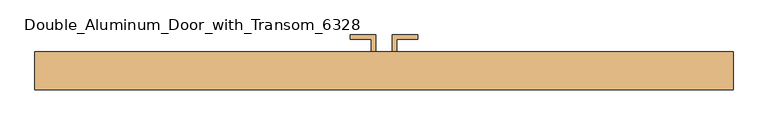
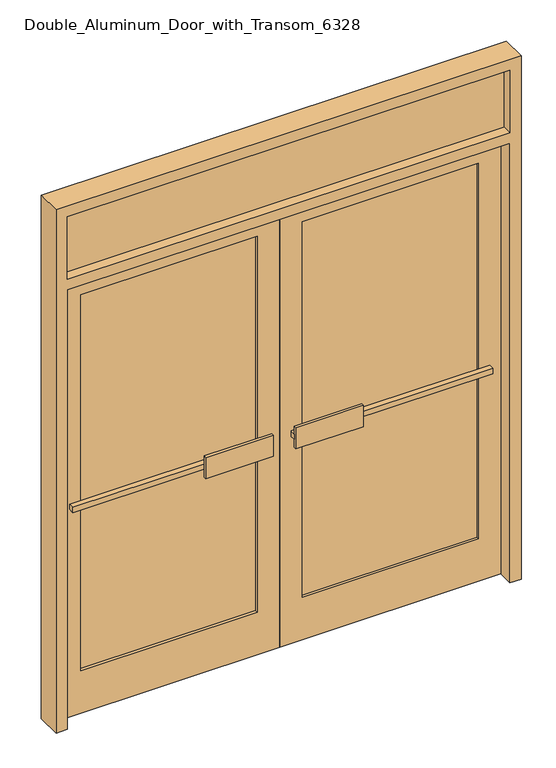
"""IFC4 building model written with IfcOpenShell, lengths in millimetres: door geometry."""

from ifc_helpers import new_model, si_unit, frame, origin, place, context, project, spatial, polyline, outline, extrude, source, transform, mapped, element, save


def double_aluminum_door_with_transom_6328_fa6c1022(model_context):
    return source(origin(), model_context, "Body", "SweptSolid", [
        extrude(outline(polyline([(898.4, 17.85), (101.6, 17.85), (101.6, 36.9), (898.4, 36.9), (898.4, 17.85)])), frame((0.0, 0.0, 203.2), z_axis=(0.0, 0.0, 1.0), x_axis=(1.0, 0.0, 0.0)), (0.0, 0.0, 1.0), 1795.2),
        extrude(outline(polyline([(2100.0, 0.0), (2100.0, -1000.0), (0.0, -1000.0), (0.0, 0.0), (2100.0, 0.0)]), holes=[polyline([(1998.4, -898.4), (1998.4, -101.6), (203.2, -101.6), (203.2, -898.4), (1998.4, -898.4)])]), frame((0.0, 5.15, 0.0), z_axis=(0.0, 1.0, 0.0), x_axis=(0.0, 0.0, 1.0)), (0.0, 0.0, 1.0), 44.45),
        extrude(outline(polyline([(50.8, 5.15), (949.2, 5.15), (949.2, -20.25), (50.8, -20.25), (50.8, 5.15)])), frame((0.0, 0.0, 990.6), z_axis=(0.0, 0.0, 1.0), x_axis=(1.0, 0.0, 0.0)), (0.0, 0.0, 1.0), 25.4),
        extrude(outline(polyline([(25.4, 100.4), (101.6, 100.4), (101.6, 87.7), (38.1, 87.7), (38.1, 49.6), (25.4, 49.6), (25.4, 100.4)])), frame((0.0, 0.0, 914.4), z_axis=(0.0, 0.0, 1.0), x_axis=(1.0, 0.0, 0.0)), (0.0, 0.0, 1.0), 203.2),
        extrude(outline(polyline([(2100.0, 0.0), (0.0, 0.0), (0.0, 1000.0), (2100.0, 1000.0), (2100.0, 0.0)]), holes=[polyline([(1998.4, 898.4), (203.2, 898.4), (203.2, 101.6), (1998.4, 101.6), (1998.4, 898.4)])]), frame((0.0, 5.15, 0.0), z_axis=(0.0, 1.0, 0.0), x_axis=(0.0, 0.0, 1.0)), (0.0, 0.0, 1.0), 44.45),
        extrude(outline(polyline([(-50.8, 5.15), (-50.8, -20.25), (-949.2, -20.25), (-949.2, 5.15), (-50.8, 5.15)])), frame((0.0, 0.0, 990.6), z_axis=(0.0, 0.0, 1.0), x_axis=(1.0, 0.0, 0.0)), (0.0, 0.0, 1.0), 25.4),
        extrude(outline(polyline([(-25.4, 100.4), (-25.4, 49.6), (-38.1, 49.6), (-38.1, 87.7), (-101.6, 87.7), (-101.6, 100.4), (-25.4, 100.4)])), frame((0.0, 0.0, 914.4), z_axis=(0.0, 0.0, 1.0), x_axis=(1.0, 0.0, 0.0)), (0.0, 0.0, 1.0), 203.2),
        extrude(outline(polyline([(-101.6, 17.85), (-898.4, 17.85), (-898.4, 36.9), (-101.6, 36.9), (-101.6, 17.85)])), frame((0.0, 0.0, 203.2), z_axis=(0.0, 0.0, 1.0), x_axis=(1.0, 0.0, 0.0)), (0.0, 0.0, 1.0), 1795.2),
        extrude(outline(polyline([(355.6, -20.25), (355.6, -32.95), (50.8, -32.95), (50.8, -20.25), (355.6, -20.25)])), frame((0.0, 0.0, 952.5), z_axis=(0.0, 0.0, 1.0), x_axis=(1.0, 0.0, 0.0)), (0.0, 0.0, 1.0), 101.6),
        extrude(outline(polyline([(1000.0, -20.25), (-1000.0, -20.25), (-1000.0, 5.15), (1000.0, 5.15), (1000.0, -20.25)])), frame((0.0, 0.0, 2150.8), z_axis=(0.0, 0.0, 1.0), x_axis=(1.0, 0.0, 0.0)), (0.0, 0.0, 1.0), 298.4),
        extrude(outline(polyline([(-355.6, -20.25), (-50.8, -20.25), (-50.8, -32.95), (-355.6, -32.95), (-355.6, -20.25)])), frame((0.0, 0.0, 952.5), z_axis=(0.0, 0.0, 1.0), x_axis=(1.0, 0.0, 0.0)), (0.0, 0.0, 1.0), 101.6),
        extrude(outline(polyline([(2500.0, 1050.8), (2500.0, -1050.8), (0.0, -1050.8), (0.0, -1000.0), (2100.0, -1000.0), (2100.0, 1000.0), (0.0, 1000.0), (0.0, 1050.8), (2500.0, 1050.8)]), holes=[polyline([(2150.8, 1000.0), (2150.8, -1000.0), (2449.2, -1000.0), (2449.2, 1000.0), (2150.8, 1000.0)])]), frame((0.0, -64.7, 0.0), z_axis=(0.0, 1.0, 0.0), x_axis=(0.0, 0.0, 1.0)), (0.0, 0.0, 1.0), 114.3),
    ])


if __name__ == "__main__":
    model = new_model("IFC4")
    model_context = context("Model", 3, world=origin())
    ifc_project = project(units=[si_unit("LENGTHUNIT", "METRE", prefix="MILLI")], contexts=[model_context])
    site = spatial("IfcSite", under=ifc_project)
    building = spatial("IfcBuilding", under=site)
    placement = place(None, origin())
    double_aluminum_door_with_transom_6328_shape = double_aluminum_door_with_transom_6328_fa6c1022(model_context)
    element("IfcDoor", 1, ObjectType="Double_Aluminum_Door_with_Transom_6328 : 6'-0\" x 7'-0\" x 9'-0\"H.", at=placement, inside=building, context=model_context, shape_type="MappedRepresentation", body=[
        mapped(double_aluminum_door_with_transom_6328_shape, transform((0.0, 0.0, 0.0), x_axis=(1.0, 0.0, 0.0), y_axis=(0.0, 1.0, 0.0), z_axis=(0.0, 0.0, 1.0))),
    ])
    save(model, "model.ifc")
